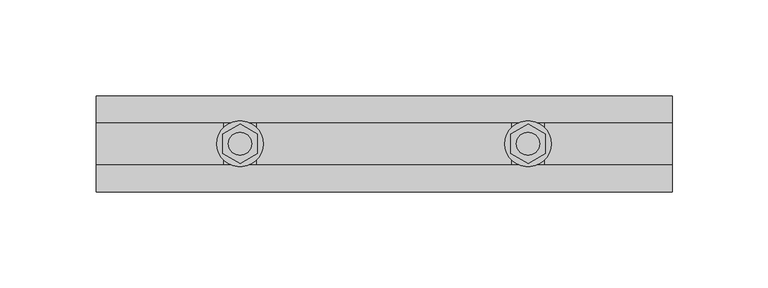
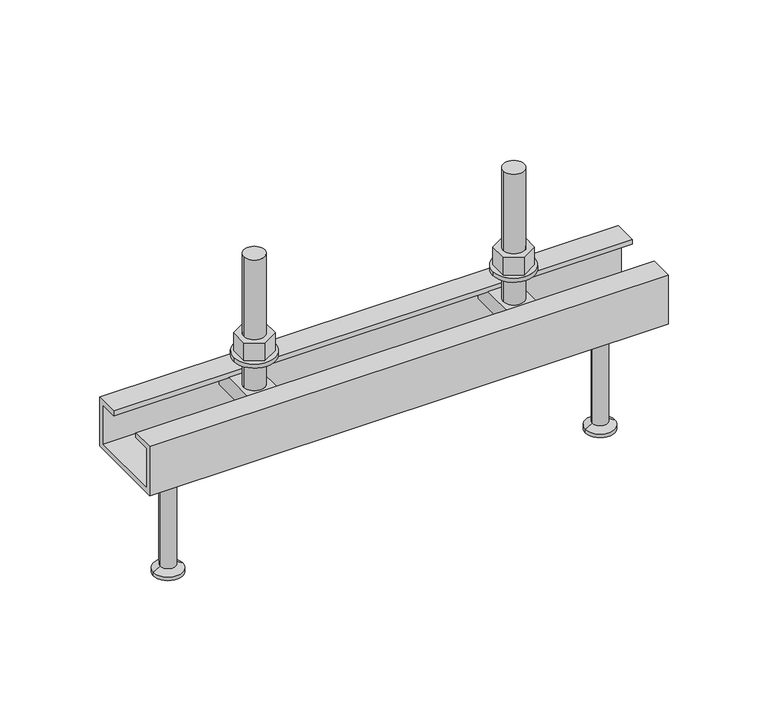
"""IFC4 building model written with IfcOpenShell, lengths in millimetres: fastener geometry, JTA-K JORDAHL® AnchorChannels : JTA-K L=300 mm."""

from ifc_helpers import new_model, si_unit, point, frame, frame_2d, origin, place, context, project, spatial, polyline, circle_curve, trimmed, segment, composite_curve, outline, extrude, source, transform, mapped, element, save
from ifc_brep_helpers import plane_surface, cylinder_surface, revolved_surface, advanced_brep


def fastener_dbdc9a0d(model_context):
    return source(origin(), model_context, "Body", "SolidModel", [
        extrude(outline(polyline([(225.0, -10.3923048), (216.0, -5.1961524), (216.0, 5.1961524), (225.0, 10.3923048), (234.0, 5.1961524), (234.0, -5.1961524), (225.0, -10.3923048)]), holes=[composite_curve([segment(trimmed(circle_curve(frame_2d((225.0, 0.0)), 6.0), [point((219.0, 0.0))], [point((231.0, 0.0))], True, "CARTESIAN"), True, "CONTINUOUS"), segment(trimmed(circle_curve(frame_2d((225.0, 0.0)), 6.0), [point((231.0, 0.0))], [point((219.0, 0.0))], True, "CARTESIAN"), True, "CONTINUOUS")], self_intersect=False)]), frame((0.0, 0.0, 17.5), z_axis=(0.0, 0.0, 1.0), x_axis=(1.0, 0.0, 0.0)), (0.0, 0.0, 1.0), 10.8),
        extrude(outline(composite_curve([segment(trimmed(circle_curve(frame_2d((225.0, 0.0)), 12.0), [point((213.0, 0.0))], [point((237.0, 0.0))], False, "CARTESIAN"), True, "CONTINUOUS"), segment(trimmed(circle_curve(frame_2d((225.0, 0.0)), 12.0), [point((237.0, 0.0))], [point((213.0, 0.0))], False, "CARTESIAN"), True, "CONTINUOUS")], self_intersect=False), holes=[composite_curve([segment(trimmed(circle_curve(frame_2d((225.0, 0.0)), 6.5), [point((218.5, 0.0))], [point((231.5, 0.0))], True, "CARTESIAN"), True, "CONTINUOUS"), segment(trimmed(circle_curve(frame_2d((225.0, 0.0)), 6.5), [point((231.5, 0.0))], [point((218.5, 0.0))], True, "CARTESIAN"), True, "CONTINUOUS")], self_intersect=False)]), frame((0.0, 0.0, 15.0), z_axis=(0.0, 0.0, 1.0), x_axis=(1.0, 0.0, 0.0)), (0.0, 0.0, 1.0), 2.5),
        extrude(outline(polyline([(75.0, -10.3923048), (66.0, -5.1961524), (66.0, 5.1961524), (75.0, 10.3923048), (84.0, 5.1961524), (84.0, -5.1961524), (75.0, -10.3923048)]), holes=[composite_curve([segment(trimmed(circle_curve(frame_2d((75.0, 0.0)), 6.0), [point((69.0, 0.0))], [point((81.0, 0.0))], True, "CARTESIAN"), True, "CONTINUOUS"), segment(trimmed(circle_curve(frame_2d((75.0, 0.0)), 6.0), [point((81.0, 0.0))], [point((69.0, 0.0))], True, "CARTESIAN"), True, "CONTINUOUS")], self_intersect=False)]), frame((0.0, 0.0, 17.5), z_axis=(0.0, 0.0, 1.0), x_axis=(1.0, 0.0, 0.0)), (0.0, 0.0, 1.0), 10.8),
        extrude(outline(composite_curve([segment(trimmed(circle_curve(frame_2d((75.0, 0.0)), 12.0), [point((63.0, 0.0))], [point((87.0, 0.0))], False, "CARTESIAN"), True, "CONTINUOUS"), segment(trimmed(circle_curve(frame_2d((75.0, 0.0)), 12.0), [point((87.0, 0.0))], [point((63.0, 0.0))], False, "CARTESIAN"), True, "CONTINUOUS")], self_intersect=False), holes=[composite_curve([segment(trimmed(circle_curve(frame_2d((75.0, 0.0)), 6.5), [point((68.5, 0.0))], [point((81.5, 0.0))], True, "CARTESIAN"), True, "CONTINUOUS"), segment(trimmed(circle_curve(frame_2d((75.0, 0.0)), 6.5), [point((81.5, 0.0))], [point((68.5, 0.0))], True, "CARTESIAN"), True, "CONTINUOUS")], self_intersect=False)]), frame((0.0, 0.0, 15.0), z_axis=(0.0, 0.0, 1.0), x_axis=(1.0, 0.0, 0.0)), (0.0, 0.0, 1.0), 2.5),
        advanced_brep(
        [(233.5, -20.7, -3.0), (233.5, -20.7, -13.0), (233.5, 20.7, -13.0), (233.5, 20.7, -3.0), (216.5, -20.7, -3.0), (216.5, 20.7, -3.0), (216.5, 20.7, -13.0), (216.5, -20.7, -13.0), (231.0, 0.0, -3.0), (219.0, 0.0, -3.0), (219.0, 0.0, 77.0), (231.0, 0.0, 77.0)],
        [
            (0, 1),
            (1, 2),
            (2, 3),
            (3, 0),
            (4, 5),
            (5, 6),
            (6, 7),
            (7, 4),
            (3, 5),
            (4, 0),
            (8, 9, circle_curve(frame((225.0, 0.0, -3.0), z_axis=(0.0, 0.0, -1.0), x_axis=(1.0, 0.0, 0.0)), 6.0)),
            (9, 8, circle_curve(frame((225.0, 0.0, -3.0), z_axis=(0.0, 0.0, -1.0), x_axis=(1.0, 0.0, 0.0)), 6.0)),
            (2, 6),
            (1, 7),
            (10, 11, circle_curve(frame((225.0, 0.0, 77.0), z_axis=(0.0, 0.0, 1.0), x_axis=(1.0, 0.0, 0.0)), 6.0)),
            (11, 10, circle_curve(frame((225.0, 0.0, 77.0), z_axis=(0.0, 0.0, 1.0), x_axis=(1.0, 0.0, 0.0)), 6.0)),
            (11, 8),
            (9, 10),
        ],
        [
            plane_surface(frame((233.5, 20.7, -3.0), z_axis=(1.0, 0.0, 0.0), x_axis=(0.0, 1.0, 0.0))),
            plane_surface(frame((216.5, 20.7, -3.0), z_axis=(-1.0, 0.0, 0.0), x_axis=(0.0, -1.0, 0.0))),
            plane_surface(frame((233.5, -20.7, -3.0), z_axis=(0.0, 0.0, 1.0), x_axis=(-1.0, 0.0, 0.0))),
            plane_surface(frame((233.5, 20.7, -3.0), z_axis=(0.0, 1.0, 0.0), x_axis=(-1.0, 0.0, 0.0))),
            plane_surface(frame((233.5, 20.7, -13.0), z_axis=(0.0, 0.0, -1.0), x_axis=(-1.0, 0.0, 0.0))),
            plane_surface(frame((233.5, -20.7, -13.0), z_axis=(0.0, -1.0, 0.0), x_axis=(-1.0, 0.0, 0.0))),
            plane_surface(frame((231.0, 0.0, 77.0), z_axis=(0.0, 0.0, 1.0), x_axis=(0.0, -1.0, 0.0))),
            cylinder_surface(frame((225.0, 0.0, -3.0), z_axis=(0.0, 0.0, 1.0), x_axis=(1.0, 0.0, 0.0)), 6.0),
        ],
        [
            (0, [[1, 2, 3, 4]]),
            (1, [[5, 6, 7, 8]]),
            (2, [[9, -5, 10, -4], [11, 12]]),
            (3, [[13, -6, -9, -3]]),
            (4, [[14, -7, -13, -2]]),
            (5, [[-10, -8, -14, -1]]),
            (6, [[15, 16]]),
            (7, [[17, -12, 18, -16]]),
            (7, [[-18, -11, -17, -15]]),
        ],
    ),
        advanced_brep(
        [(83.5, -20.7, -3.0), (83.5, -20.7, -13.0), (83.5, 20.7, -13.0), (83.5, 20.7, -3.0), (66.5, -20.7, -3.0), (66.5, 20.7, -3.0), (66.5, 20.7, -13.0), (66.5, -20.7, -13.0), (81.0, 0.0, -3.0), (69.0, 0.0, -3.0), (69.0, 0.0, 77.0), (81.0, 0.0, 77.0)],
        [
            (0, 1),
            (1, 2),
            (2, 3),
            (3, 0),
            (4, 5),
            (5, 6),
            (6, 7),
            (7, 4),
            (3, 5),
            (4, 0),
            (8, 9, circle_curve(frame((75.0, 0.0, -3.0), z_axis=(0.0, 0.0, -1.0), x_axis=(1.0, 0.0, 0.0)), 6.0)),
            (9, 8, circle_curve(frame((75.0, 0.0, -3.0), z_axis=(0.0, 0.0, -1.0), x_axis=(1.0, 0.0, 0.0)), 6.0)),
            (2, 6),
            (1, 7),
            (10, 11, circle_curve(frame((75.0, 0.0, 77.0), z_axis=(0.0, 0.0, 1.0), x_axis=(1.0, 0.0, 0.0)), 6.0)),
            (11, 10, circle_curve(frame((75.0, 0.0, 77.0), z_axis=(0.0, 0.0, 1.0), x_axis=(1.0, 0.0, 0.0)), 6.0)),
            (11, 8),
            (9, 10),
        ],
        [
            plane_surface(frame((83.5, 20.7, -3.0), z_axis=(1.0, 0.0, 0.0), x_axis=(0.0, 1.0, 0.0))),
            plane_surface(frame((66.5, 20.7, -3.0), z_axis=(-1.0, 0.0, 0.0), x_axis=(0.0, -1.0, 0.0))),
            plane_surface(frame((83.5, -20.7, -3.0), z_axis=(0.0, 0.0, 1.0), x_axis=(-1.0, 0.0, 0.0))),
            plane_surface(frame((83.5, 20.7, -3.0), z_axis=(0.0, 1.0, 0.0), x_axis=(-1.0, 0.0, 0.0))),
            plane_surface(frame((83.5, 20.7, -13.0), z_axis=(0.0, 0.0, -1.0), x_axis=(-1.0, 0.0, 0.0))),
            plane_surface(frame((83.5, -20.7, -13.0), z_axis=(0.0, -1.0, 0.0), x_axis=(-1.0, 0.0, 0.0))),
            plane_surface(frame((81.0, 0.0, 77.0), z_axis=(0.0, 0.0, 1.0), x_axis=(0.0, -1.0, 0.0))),
            cylinder_surface(frame((75.0, 0.0, -3.0), z_axis=(0.0, 0.0, 1.0), x_axis=(1.0, 0.0, 0.0)), 6.0),
        ],
        [
            (0, [[1, 2, 3, 4]]),
            (1, [[5, 6, 7, 8]]),
            (2, [[9, -5, 10, -4], [11, 12]]),
            (3, [[13, -6, -9, -3]]),
            (4, [[14, -7, -13, -2]]),
            (5, [[-10, -8, -14, -1]]),
            (6, [[15, 16]]),
            (7, [[17, -12, 18, -16]]),
            (7, [[-18, -11, -17, -15]]),
        ],
    ),
        advanced_brep(
        [(275.0, 0.0, -30.0), (261.5, 0.0, -30.0), (288.5, 0.0, -30.0), (266.5, 0.0, -100.0), (275.0, 0.0, -100.0), (283.5, 0.0, -100.0), (266.5, 0.0, -98.0), (283.5, 0.0, -98.0), (270.5, 0.0, -95.6905989), (279.5, 0.0, -95.6905989), (270.5, 0.0, -32.5), (279.5, 0.0, -32.5)],
        [
            (0, 1),
            (1, 2, circle_curve(frame((275.0, 0.0, -30.0), z_axis=(0.0, 0.0, 1.0), x_axis=(1.0, 0.0, 0.0)), 13.5)),
            (2, 0),
            (2, 1, circle_curve(frame((275.0, 0.0, -30.0), z_axis=(0.0, 0.0, 1.0), x_axis=(1.0, 0.0, 0.0)), 13.5)),
            (3, 4),
            (4, 5),
            (5, 3, circle_curve(frame((275.0, 0.0, -100.0), z_axis=(0.0, 0.0, -1.0), x_axis=(1.0, 0.0, 0.0)), 8.5)),
            (3, 5, circle_curve(frame((275.0, 0.0, -100.0), z_axis=(0.0, 0.0, -1.0), x_axis=(1.0, 0.0, 0.0)), 8.5)),
            (6, 3),
            (5, 7),
            (7, 6, circle_curve(frame((275.0, 0.0, -98.0), z_axis=(0.0, 0.0, -1.0), x_axis=(1.0, 0.0, 0.0)), 8.5)),
            (6, 7, circle_curve(frame((275.0, 0.0, -98.0), z_axis=(0.0, 0.0, -1.0), x_axis=(1.0, 0.0, 0.0)), 8.5)),
            (8, 6),
            (7, 9),
            (9, 8, circle_curve(frame((275.0, 0.0, -95.6905989), z_axis=(0.0, 0.0, -1.0), x_axis=(1.0, 0.0, 0.0)), 4.5)),
            (8, 9, circle_curve(frame((275.0, 0.0, -95.6905989), z_axis=(0.0, 0.0, -1.0), x_axis=(1.0, 0.0, 0.0)), 4.5)),
            (10, 8),
            (9, 11),
            (11, 10, circle_curve(frame((275.0, 0.0, -32.5), z_axis=(0.0, 0.0, -1.0), x_axis=(1.0, 0.0, 0.0)), 4.5)),
            (10, 11, circle_curve(frame((275.0, 0.0, -32.5), z_axis=(0.0, 0.0, -1.0), x_axis=(1.0, 0.0, 0.0)), 4.5)),
            (1, 10),
            (11, 2),
        ],
        [
            plane_surface(frame((275.0, 0.0, -30.0), z_axis=(0.0, 0.0, 1.0), x_axis=(1.0, 0.0, 0.0))),
            plane_surface(frame((275.0, 0.0, -100.0), z_axis=(0.0, 0.0, -1.0), x_axis=(1.0, 0.0, 0.0))),
            cylinder_surface(frame((275.0, 0.0, 2284.3150031), z_axis=(0.0, 0.0, 1.0), x_axis=(1.0, 0.0, 0.0)), 8.5),
            revolved_surface(polyline([(283.5, 0.0, -98.0), (279.5, 0.0, -95.6905989)]), (275.0, 0.0, 2284.3150031), (0.0, 0.0, 1.0)),
            cylinder_surface(frame((275.0, 0.0, 2284.3150031), z_axis=(0.0, 0.0, 1.0), x_axis=(1.0, 0.0, 0.0)), 4.5),
            revolved_surface(polyline([(279.5, 0.0, -32.5), (288.5, 0.0, -30.0)]), (275.0, 0.0, 2284.3150031), (0.0, 0.0, 1.0)),
        ],
        [
            (0, [[1, 2, 3]]),
            (0, [[-3, 4, -1]]),
            (1, [[5, 6, 7]]),
            (1, [[-6, -5, 8]]),
            (2, [[9, -7, 10, 11]]),
            (2, [[-10, -8, -9, 12]]),
            (3, [[13, -11, 14, 15]]),
            (3, [[-14, -12, -13, 16]]),
            (4, [[17, -15, 18, 19]]),
            (4, [[-18, -16, -17, 20]]),
            (5, [[21, -19, 22, -2]]),
            (5, [[-22, -20, -21, -4]]),
        ],
    ),
        advanced_brep(
        [(25.0, 0.0, -30.0), (11.5, 0.0, -30.0), (38.5, 0.0, -30.0), (16.5, 0.0, -100.0), (25.0, 0.0, -100.0), (33.5, 0.0, -100.0), (16.5, 0.0, -98.0), (33.5, 0.0, -98.0), (20.5, 0.0, -95.6905989), (29.5, 0.0, -95.6905989), (20.5, 0.0, -32.5), (29.5, 0.0, -32.5)],
        [
            (0, 1),
            (1, 2, circle_curve(frame((25.0, 0.0, -30.0), z_axis=(0.0, 0.0, 1.0), x_axis=(1.0, 0.0, 0.0)), 13.5)),
            (2, 0),
            (2, 1, circle_curve(frame((25.0, 0.0, -30.0), z_axis=(0.0, 0.0, 1.0), x_axis=(1.0, 0.0, 0.0)), 13.5)),
            (3, 4),
            (4, 5),
            (5, 3, circle_curve(frame((25.0, 0.0, -100.0), z_axis=(0.0, 0.0, -1.0), x_axis=(1.0, 0.0, 0.0)), 8.5)),
            (3, 5, circle_curve(frame((25.0, 0.0, -100.0), z_axis=(0.0, 0.0, -1.0), x_axis=(1.0, 0.0, 0.0)), 8.5)),
            (6, 3),
            (5, 7),
            (7, 6, circle_curve(frame((25.0, 0.0, -98.0), z_axis=(0.0, 0.0, -1.0), x_axis=(1.0, 0.0, 0.0)), 8.5)),
            (6, 7, circle_curve(frame((25.0, 0.0, -98.0), z_axis=(0.0, 0.0, -1.0), x_axis=(1.0, 0.0, 0.0)), 8.5)),
            (8, 6),
            (7, 9),
            (9, 8, circle_curve(frame((25.0, 0.0, -95.6905989), z_axis=(0.0, 0.0, -1.0), x_axis=(1.0, 0.0, 0.0)), 4.5)),
            (8, 9, circle_curve(frame((25.0, 0.0, -95.6905989), z_axis=(0.0, 0.0, -1.0), x_axis=(1.0, 0.0, 0.0)), 4.5)),
            (10, 8),
            (9, 11),
            (11, 10, circle_curve(frame((25.0, 0.0, -32.5), z_axis=(0.0, 0.0, -1.0), x_axis=(1.0, 0.0, 0.0)), 4.5)),
            (10, 11, circle_curve(frame((25.0, 0.0, -32.5), z_axis=(0.0, 0.0, -1.0), x_axis=(1.0, 0.0, 0.0)), 4.5)),
            (1, 10),
            (11, 2),
        ],
        [
            plane_surface(frame((25.0, 0.0, -30.0), z_axis=(0.0, 0.0, 1.0), x_axis=(1.0, 0.0, 0.0))),
            plane_surface(frame((25.0, 0.0, -100.0), z_axis=(0.0, 0.0, -1.0), x_axis=(1.0, 0.0, 0.0))),
            cylinder_surface(frame((25.0, 0.0, 2284.3150031), z_axis=(0.0, 0.0, 1.0), x_axis=(1.0, 0.0, 0.0)), 8.5),
            revolved_surface(polyline([(33.5, 0.0, -98.0), (29.5, 0.0, -95.6905989)]), (25.0, 0.0, 2284.3150031), (0.0, 0.0, 1.0)),
            cylinder_surface(frame((25.0, 0.0, 2284.3150031), z_axis=(0.0, 0.0, 1.0), x_axis=(1.0, 0.0, 0.0)), 4.5),
            revolved_surface(polyline([(29.5, 0.0, -32.5), (38.5, 0.0, -30.0)]), (25.0, 0.0, 2284.3150031), (0.0, 0.0, 1.0)),
        ],
        [
            (0, [[1, 2, 3]]),
            (0, [[-3, 4, -1]]),
            (1, [[5, 6, 7]]),
            (1, [[-6, -5, 8]]),
            (2, [[9, -7, 10, 11]]),
            (2, [[-10, -8, -9, 12]]),
            (3, [[13, -11, 14, 15]]),
            (3, [[-14, -12, -13, 16]]),
            (4, [[17, -15, 18, 19]]),
            (4, [[-18, -16, -17, 20]]),
            (5, [[21, -19, 22, -2]]),
            (5, [[-22, -20, -21, -4]]),
        ],
    ),
        extrude(outline(polyline([(-25.0, 0.0), (-11.0, 0.0), (-11.0, -3.0), (-22.0, -3.0), (-22.0, -27.0), (22.0, -27.0), (22.0, -3.0), (11.0, -3.0), (11.0, 0.0), (25.0, 0.0), (25.0, -30.0), (-25.0, -30.0), (-25.0, 0.0)])), frame((0.0, 0.0, 0.0), z_axis=(1.0, 0.0, 0.0), x_axis=(0.0, 1.0, 0.0)), (0.0, 0.0, 1.0), 300.0),
    ])


if __name__ == "__main__":
    model = new_model("IFC4")
    model_context = context("Model", 3, world=origin())
    ifc_project = project(units=[si_unit("LENGTHUNIT", "METRE", prefix="MILLI")], contexts=[model_context])
    site = spatial("IfcSite", under=ifc_project)
    building = spatial("IfcBuilding", under=site)
    placement = place(None, origin())
    fastener_shape = fastener_dbdc9a0d(model_context)
    element("IfcFastener", 1, ObjectType="JTA-K JORDAHL® AnchorChannels : JTA-K L=300 mm", at=placement, inside=building, context=model_context, shape_type="MappedRepresentation", body=[
        mapped(fastener_shape, transform((0.0, 0.0, 0.0), x_axis=(1.0, 0.0, 0.0), y_axis=(0.0, 1.0, 0.0), z_axis=(0.0, 0.0, 1.0))),
    ])
    save(model, "model.ifc")
